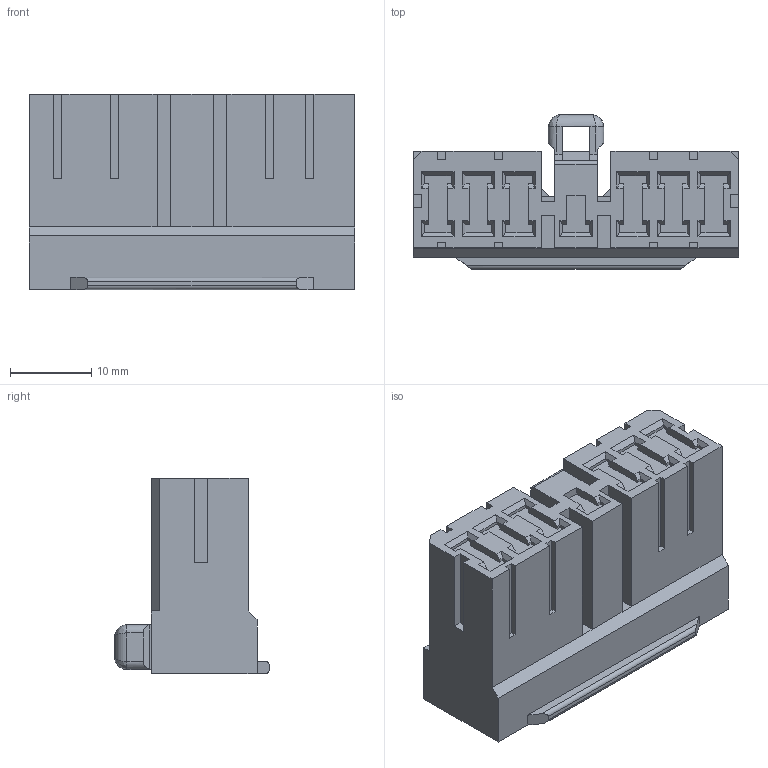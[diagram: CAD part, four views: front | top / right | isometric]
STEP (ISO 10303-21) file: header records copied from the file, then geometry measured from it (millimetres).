
FILE_DESCRIPTION((''),'2;1');
FILE_NAME('C-172498-1','2008-09-18T',('workeradm'),('Tyco Electronics Corporation'),'PRO/ENGINEER BY PARAMETRIC TECHNOLOGY CORPORATION, 2005450','PRO/ENGINEER BY PARAMETRIC TECHNOLOGY CORPORATION, 2005450','');
FILE_SCHEMA(('CONFIG_CONTROL_DESIGN', 'GEOMETRIC_VALIDATION_PROPERTIES_MIM'));
Length unit declared in the file: millimetre
Products named in the file (1): C-172498-1
Bounding box: 40 x 19 x 24 mm (x, y, z)
Volume: 10260 mm3; surface area: 5133.4 mm2
Topology: 1 solids, 1 shells, 347 faces, 901 edges, 574 vertices
Faces by surface type: plane 331, cylinder 12, bspline 4
Entity records: 10648 total; most frequent: CARTESIAN_POINT 2111, ORIENTED_EDGE 1802, DIRECTION 1575, EDGE_CURVE 901, VECTOR 873, LINE 873, VERTEX_POINT 574, EDGE_LOOP 367
